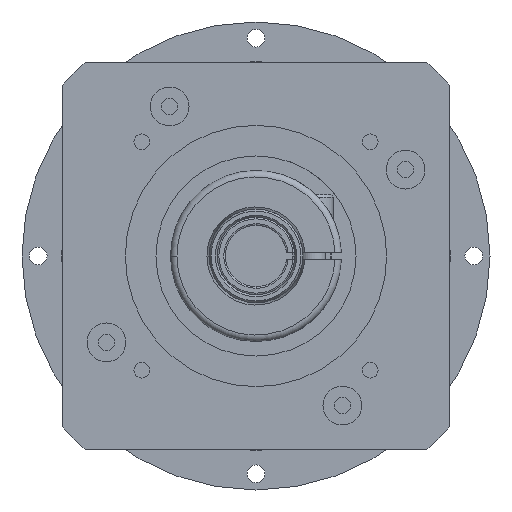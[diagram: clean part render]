
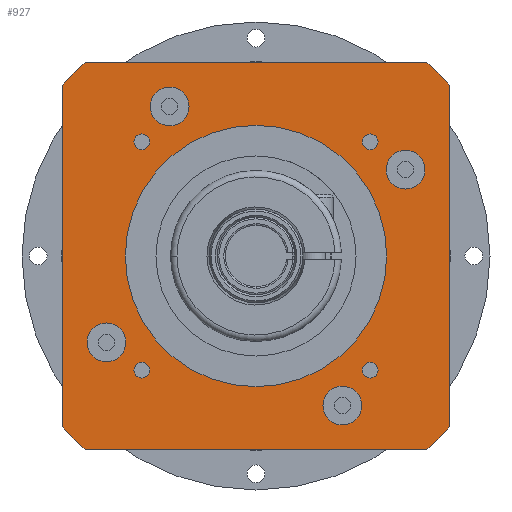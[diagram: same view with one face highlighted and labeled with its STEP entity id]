
A CAD part, left-side view. The second image highlights one B-rep face of the part: STEP entity #927.
In plain terms, the highlighted planar face has unit normal (-1, 0, 0).
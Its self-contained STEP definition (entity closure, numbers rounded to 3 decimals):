
#927=ADVANCED_FACE('',(#1909,#1910,#1911,#1912,#1913,#1914,#1915,#1916,#1917,#1918),#1919,.F.);
#1909=FACE_BOUND('',#2939,.T.);
#1910=FACE_BOUND('',#2940,.T.);
#1911=FACE_BOUND('',#2941,.T.);
#1912=FACE_BOUND('',#2942,.T.);
#1913=FACE_BOUND('',#2943,.T.);
#1914=FACE_BOUND('',#2944,.T.);
#1915=FACE_BOUND('',#2945,.T.);
#1916=FACE_BOUND('',#2946,.T.);
#1917=FACE_BOUND('',#2947,.T.);
#1918=FACE_OUTER_BOUND('',#2948,.T.);
#1919=PLANE('',#2949);
#2939=EDGE_LOOP('',(#5323,#5324));
#2940=EDGE_LOOP('',(#5325,#5326));
#2941=EDGE_LOOP('',(#5327,#5328));
#2942=EDGE_LOOP('',(#5329,#5330));
#2943=EDGE_LOOP('',(#5331,#5332));
#2944=EDGE_LOOP('',(#5333,#5334));
#2945=EDGE_LOOP('',(#5335,#5336));
#2946=EDGE_LOOP('',(#5337,#5338));
#2947=EDGE_LOOP('',(#5339,#5340));
#2948=EDGE_LOOP('',(#5341,#5342,#5343,#5344,#5345,#5346,#5347,#5348));
#2949=AXIS2_PLACEMENT_3D('',#5349,#5350,#5351);
#5323=ORIENTED_EDGE('',*,*,#6443,.T.);
#5324=ORIENTED_EDGE('',*,*,#6471,.T.);
#5325=ORIENTED_EDGE('',*,*,#6433,.T.);
#5326=ORIENTED_EDGE('',*,*,#6478,.T.);
#5327=ORIENTED_EDGE('',*,*,#6423,.T.);
#5328=ORIENTED_EDGE('',*,*,#6485,.T.);
#5329=ORIENTED_EDGE('',*,*,#6413,.T.);
#5330=ORIENTED_EDGE('',*,*,#6492,.T.);
#5331=ORIENTED_EDGE('',*,*,#6403,.T.);
#5332=ORIENTED_EDGE('',*,*,#6499,.T.);
#5333=ORIENTED_EDGE('',*,*,#6398,.T.);
#5334=ORIENTED_EDGE('',*,*,#6503,.T.);
#5335=ORIENTED_EDGE('',*,*,#6393,.T.);
#5336=ORIENTED_EDGE('',*,*,#6507,.T.);
#5337=ORIENTED_EDGE('',*,*,#6388,.T.);
#5338=ORIENTED_EDGE('',*,*,#6511,.T.);
#5339=ORIENTED_EDGE('',*,*,#6383,.T.);
#5340=ORIENTED_EDGE('',*,*,#6515,.T.);
#5341=ORIENTED_EDGE('',*,*,#6545,.T.);
#5342=ORIENTED_EDGE('',*,*,#6548,.T.);
#5343=ORIENTED_EDGE('',*,*,#6542,.T.);
#5344=ORIENTED_EDGE('',*,*,#6552,.F.);
#5345=ORIENTED_EDGE('',*,*,#6538,.T.);
#5346=ORIENTED_EDGE('',*,*,#6554,.F.);
#5347=ORIENTED_EDGE('',*,*,#6533,.T.);
#5348=ORIENTED_EDGE('',*,*,#6550,.F.);
#5349=CARTESIAN_POINT('',(-57.0,0.0,0.0));
#5350=DIRECTION('',(1.0,0.0,0.0));
#5351=DIRECTION('',(0.0,1.0,0.0));
#6383=EDGE_CURVE('',#7691,#7695,#7697,.T.);
#6388=EDGE_CURVE('',#7700,#7704,#7706,.T.);
#6393=EDGE_CURVE('',#7709,#7713,#7715,.T.);
#6398=EDGE_CURVE('',#7718,#7722,#7724,.T.);
#6403=EDGE_CURVE('',#7727,#7731,#7733,.T.);
#6413=EDGE_CURVE('',#7745,#7749,#7751,.T.);
#6423=EDGE_CURVE('',#7763,#7767,#7769,.T.);
#6433=EDGE_CURVE('',#7781,#7785,#7787,.T.);
#6443=EDGE_CURVE('',#7799,#7803,#7805,.T.);
#6471=EDGE_CURVE('',#7803,#7799,#7846,.T.);
#6478=EDGE_CURVE('',#7785,#7781,#7853,.T.);
#6485=EDGE_CURVE('',#7767,#7763,#7860,.T.);
#6492=EDGE_CURVE('',#7749,#7745,#7867,.T.);
#6499=EDGE_CURVE('',#7731,#7727,#7874,.T.);
#6503=EDGE_CURVE('',#7722,#7718,#7878,.T.);
#6507=EDGE_CURVE('',#7713,#7709,#7882,.T.);
#6511=EDGE_CURVE('',#7704,#7700,#7886,.T.);
#6515=EDGE_CURVE('',#7695,#7691,#7890,.T.);
#6533=EDGE_CURVE('',#7917,#7915,#7918,.T.);
#6538=EDGE_CURVE('',#7921,#7923,#7925,.T.);
#6542=EDGE_CURVE('',#7927,#7929,#7931,.T.);
#6545=EDGE_CURVE('',#7935,#7933,#7936,.T.);
#6548=EDGE_CURVE('',#7933,#7927,#7939,.T.);
#6550=EDGE_CURVE('',#7935,#7915,#7941,.T.);
#6552=EDGE_CURVE('',#7921,#7929,#7943,.T.);
#6554=EDGE_CURVE('',#7917,#7923,#7945,.T.);
#7691=VERTEX_POINT('',#9902);
#7695=VERTEX_POINT('',#9907);
#7697=CIRCLE('',#9910,2.459);
#7700=VERTEX_POINT('',#9913);
#7704=VERTEX_POINT('',#9918);
#7706=CIRCLE('',#9921,2.459);
#7709=VERTEX_POINT('',#9924);
#7713=VERTEX_POINT('',#9929);
#7715=CIRCLE('',#9932,2.459);
#7718=VERTEX_POINT('',#9935);
#7722=VERTEX_POINT('',#9940);
#7724=CIRCLE('',#9943,2.459);
#7727=VERTEX_POINT('',#9946);
#7731=VERTEX_POINT('',#9951);
#7733=CIRCLE('',#9954,6.0);
#7745=VERTEX_POINT('',#9968);
#7749=VERTEX_POINT('',#9973);
#7751=CIRCLE('',#9976,6.0);
#7763=VERTEX_POINT('',#9990);
#7767=VERTEX_POINT('',#9995);
#7769=CIRCLE('',#9998,6.0);
#7781=VERTEX_POINT('',#10012);
#7785=VERTEX_POINT('',#10017);
#7787=CIRCLE('',#10020,6.0);
#7799=VERTEX_POINT('',#10034);
#7803=VERTEX_POINT('',#10039);
#7805=CIRCLE('',#10042,40.5);
#7846=CIRCLE('',#10156,40.5);
#7853=CIRCLE('',#10163,6.0);
#7860=CIRCLE('',#10170,6.0);
#7867=CIRCLE('',#10177,6.0);
#7874=CIRCLE('',#10184,6.0);
#7878=CIRCLE('',#10188,2.459);
#7882=CIRCLE('',#10192,2.459);
#7886=CIRCLE('',#10196,2.459);
#7890=CIRCLE('',#10200,2.459);
#7915=VERTEX_POINT('',#10229);
#7917=VERTEX_POINT('',#10232);
#7918=CIRCLE('',#10233,80.0);
#7921=VERTEX_POINT('',#10237);
#7923=VERTEX_POINT('',#10240);
#7925=CIRCLE('',#10243,80.0);
#7927=VERTEX_POINT('',#10245);
#7929=VERTEX_POINT('',#10248);
#7931=CIRCLE('',#10251,80.0);
#7933=VERTEX_POINT('',#10253);
#7935=VERTEX_POINT('',#10256);
#7936=CIRCLE('',#10257,80.0);
#7939=LINE('',#10261,#10262);
#7941=LINE('',#10264,#10265);
#7943=LINE('',#10267,#10268);
#7945=LINE('',#10270,#10271);
#9902=CARTESIAN_POINT('',(-57.0,-32.897,-35.355));
#9907=CARTESIAN_POINT('',(-57.0,-37.814,-35.355));
#9910=AXIS2_PLACEMENT_3D('',#11782,#11783,#11784);
#9913=CARTESIAN_POINT('',(-57.0,-32.897,35.355));
#9918=CARTESIAN_POINT('',(-57.0,-37.814,35.355));
#9921=AXIS2_PLACEMENT_3D('',#11790,#11791,#11792);
#9924=CARTESIAN_POINT('',(-57.0,37.814,35.355));
#9929=CARTESIAN_POINT('',(-57.0,32.897,35.355));
#9932=AXIS2_PLACEMENT_3D('',#11798,#11799,#11800);
#9935=CARTESIAN_POINT('',(-57.0,37.814,-35.355));
#9940=CARTESIAN_POINT('',(-57.0,32.897,-35.355));
#9943=AXIS2_PLACEMENT_3D('',#11806,#11807,#11808);
#9946=CARTESIAN_POINT('',(-57.0,32.75,46.332));
#9951=CARTESIAN_POINT('',(-57.0,20.75,46.332));
#9954=AXIS2_PLACEMENT_3D('',#11814,#11815,#11816);
#9968=CARTESIAN_POINT('',(-57.0,52.332,-26.75));
#9973=CARTESIAN_POINT('',(-57.0,40.332,-26.75));
#9976=AXIS2_PLACEMENT_3D('',#11830,#11831,#11832);
#9990=CARTESIAN_POINT('',(-57.0,-20.75,-46.332));
#9995=CARTESIAN_POINT('',(-57.0,-32.75,-46.332));
#9998=AXIS2_PLACEMENT_3D('',#11846,#11847,#11848);
#10012=CARTESIAN_POINT('',(-57.0,-40.332,26.75));
#10017=CARTESIAN_POINT('',(-57.0,-52.332,26.75));
#10020=AXIS2_PLACEMENT_3D('',#11862,#11863,#11864);
#10034=CARTESIAN_POINT('',(-57.0,40.5,0.0));
#10039=CARTESIAN_POINT('',(-57.0,-40.5,0.));
#10042=AXIS2_PLACEMENT_3D('',#11878,#11879,#11880);
#10156=AXIS2_PLACEMENT_3D('',#11917,#11918,#11919);
#10163=AXIS2_PLACEMENT_3D('',#11929,#11930,#11931);
#10170=AXIS2_PLACEMENT_3D('',#11941,#11942,#11943);
#10177=AXIS2_PLACEMENT_3D('',#11953,#11954,#11955);
#10184=AXIS2_PLACEMENT_3D('',#11965,#11966,#11967);
#10188=AXIS2_PLACEMENT_3D('',#11971,#11972,#11973);
#10192=AXIS2_PLACEMENT_3D('',#11977,#11978,#11979);
#10196=AXIS2_PLACEMENT_3D('',#11983,#11984,#11985);
#10200=AXIS2_PLACEMENT_3D('',#11989,#11990,#11991);
#10229=CARTESIAN_POINT('',(-57.0,-60.0,-52.915));
#10232=CARTESIAN_POINT('',(-57.0,-52.915,-60.0));
#10233=AXIS2_PLACEMENT_3D('',#12018,#12019,#12020);
#10237=CARTESIAN_POINT('',(-57.0,60.0,-52.915));
#10240=CARTESIAN_POINT('',(-57.0,52.915,-60.0));
#10243=AXIS2_PLACEMENT_3D('',#12024,#12025,#12026);
#10245=CARTESIAN_POINT('',(-57.0,52.915,60.0));
#10248=CARTESIAN_POINT('',(-57.0,60.0,52.915));
#10251=AXIS2_PLACEMENT_3D('',#12029,#12030,#12031);
#10253=CARTESIAN_POINT('',(-57.0,-52.915,60.0));
#10256=CARTESIAN_POINT('',(-57.0,-60.0,52.915));
#10257=AXIS2_PLACEMENT_3D('',#12033,#12034,#12035);
#10261=CARTESIAN_POINT('',(-57.0,0.0,60.0));
#10262=VECTOR('',#12037,1.0);
#10264=CARTESIAN_POINT('',(-57.0,-60.0,0.0));
#10265=VECTOR('',#12038,1.0);
#10267=CARTESIAN_POINT('',(-57.0,60.0,0.0));
#10268=VECTOR('',#12039,1.0);
#10270=CARTESIAN_POINT('',(-57.0,0.0,-60.0));
#10271=VECTOR('',#12040,1.0);
#11782=CARTESIAN_POINT('',(-57.0,-35.355,-35.355));
#11783=DIRECTION('',(1.0,0.0,0.0));
#11784=DIRECTION('',(0.0,1.0,0.0));
#11790=CARTESIAN_POINT('',(-57.0,-35.355,35.355));
#11791=DIRECTION('',(1.0,0.0,0.0));
#11792=DIRECTION('',(0.0,1.0,0.0));
#11798=CARTESIAN_POINT('',(-57.0,35.355,35.355));
#11799=DIRECTION('',(1.0,0.0,0.0));
#11800=DIRECTION('',(0.0,1.0,0.0));
#11806=CARTESIAN_POINT('',(-57.0,35.355,-35.355));
#11807=DIRECTION('',(1.0,0.0,0.0));
#11808=DIRECTION('',(0.0,1.0,0.0));
#11814=CARTESIAN_POINT('',(-57.0,26.75,46.332));
#11815=DIRECTION('',(1.0,0.0,0.0));
#11816=DIRECTION('',(0.0,1.0,0.0));
#11830=CARTESIAN_POINT('',(-57.0,46.332,-26.75));
#11831=DIRECTION('',(1.0,0.0,0.0));
#11832=DIRECTION('',(0.0,1.0,0.0));
#11846=CARTESIAN_POINT('',(-57.0,-26.75,-46.332));
#11847=DIRECTION('',(1.0,0.0,0.0));
#11848=DIRECTION('',(0.0,1.0,0.0));
#11862=CARTESIAN_POINT('',(-57.0,-46.332,26.75));
#11863=DIRECTION('',(1.0,0.0,0.0));
#11864=DIRECTION('',(0.0,1.0,0.0));
#11878=CARTESIAN_POINT('',(-57.0,0.0,0.0));
#11879=DIRECTION('',(1.0,0.0,0.0));
#11880=DIRECTION('',(0.0,1.0,0.0));
#11917=CARTESIAN_POINT('',(-57.0,0.0,0.0));
#11918=DIRECTION('',(1.0,0.0,0.0));
#11919=DIRECTION('',(0.0,1.0,0.0));
#11929=CARTESIAN_POINT('',(-57.0,-46.332,26.75));
#11930=DIRECTION('',(1.0,0.0,0.0));
#11931=DIRECTION('',(0.0,1.0,0.0));
#11941=CARTESIAN_POINT('',(-57.0,-26.75,-46.332));
#11942=DIRECTION('',(1.0,0.0,0.0));
#11943=DIRECTION('',(0.0,1.0,0.0));
#11953=CARTESIAN_POINT('',(-57.0,46.332,-26.75));
#11954=DIRECTION('',(1.0,0.0,0.0));
#11955=DIRECTION('',(0.0,1.0,0.0));
#11965=CARTESIAN_POINT('',(-57.0,26.75,46.332));
#11966=DIRECTION('',(1.0,0.0,0.0));
#11967=DIRECTION('',(0.0,1.0,0.0));
#11971=CARTESIAN_POINT('',(-57.0,35.355,-35.355));
#11972=DIRECTION('',(1.0,0.0,0.0));
#11973=DIRECTION('',(0.0,1.0,0.0));
#11977=CARTESIAN_POINT('',(-57.0,35.355,35.355));
#11978=DIRECTION('',(1.0,0.0,0.0));
#11979=DIRECTION('',(0.0,1.0,0.0));
#11983=CARTESIAN_POINT('',(-57.0,-35.355,35.355));
#11984=DIRECTION('',(1.0,0.0,0.0));
#11985=DIRECTION('',(0.0,1.0,0.0));
#11989=CARTESIAN_POINT('',(-57.0,-35.355,-35.355));
#11990=DIRECTION('',(1.0,0.0,0.0));
#11991=DIRECTION('',(0.0,1.0,0.0));
#12018=CARTESIAN_POINT('',(-57.0,0.0,0.0));
#12019=DIRECTION('',(-1.0,0.0,0.0));
#12020=DIRECTION('',(0.0,1.0,0.0));
#12024=CARTESIAN_POINT('',(-57.0,0.0,0.0));
#12025=DIRECTION('',(-1.0,0.0,0.0));
#12026=DIRECTION('',(0.0,1.0,0.0));
#12029=CARTESIAN_POINT('',(-57.0,0.0,0.0));
#12030=DIRECTION('',(-1.0,0.0,0.0));
#12031=DIRECTION('',(0.0,1.0,0.0));
#12033=CARTESIAN_POINT('',(-57.0,0.0,0.0));
#12034=DIRECTION('',(-1.0,0.0,0.0));
#12035=DIRECTION('',(0.0,1.0,0.0));
#12037=DIRECTION('',(0.0,1.0,0.0));
#12038=DIRECTION('',(0.0,0.0,-1.0));
#12039=DIRECTION('',(0.0,0.0,1.0));
#12040=DIRECTION('',(0.0,1.0,0.0));
